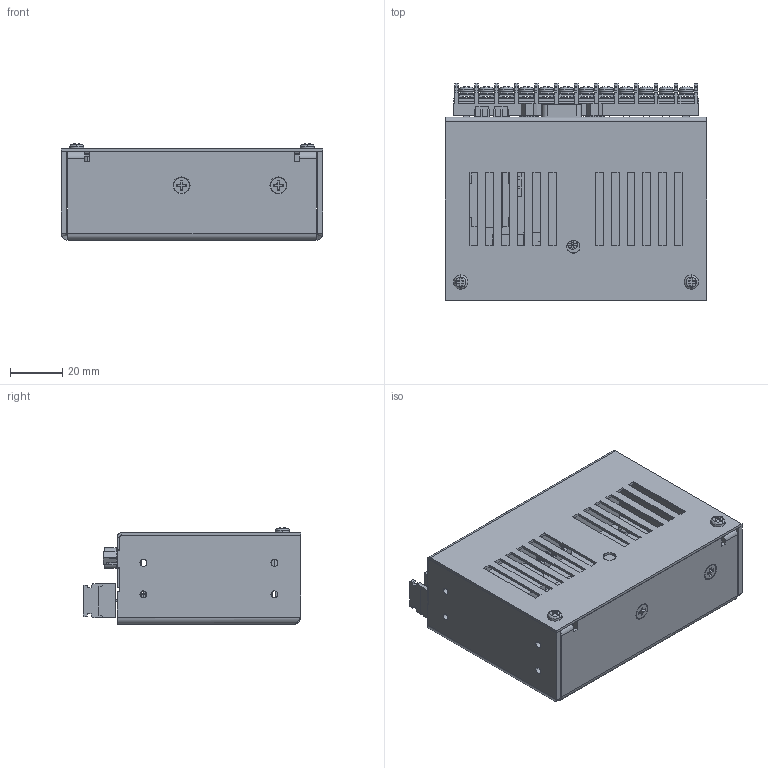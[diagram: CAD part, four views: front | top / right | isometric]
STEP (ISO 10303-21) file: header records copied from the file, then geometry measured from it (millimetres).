
FILE_DESCRIPTION (( 'STEP AP214' ), '1' );
FILE_NAME ('Assem_D6060E_Driver_Shape.STEP', '2012-02-23T15:35:29', ( '' ), ( '' ), 'SwSTEP 2.0', 'SolidWorks 2010', '' );
FILE_SCHEMA (( 'AUTOMOTIVE_DESIGN' ));
Length unit declared in the file: millimetre
Products named in the file (1): Assem_D6060E_Driver_Shape
Bounding box: 100 x 82.9 x 36.96 mm (x, y, z)
Surface area: 73393.3 mm2 (no closed solid volume)
Topology: 0 solids, 112 shells, 1579 faces, 5553 edges, 3997 vertices
Faces by surface type: plane 922, cylinder 439, bspline 84, torus 76, cone 58
Entity records: 79361 total; most frequent: CARTESIAN_POINT 15352, DIRECTION 9357, ORIENTED_EDGE 9033, EDGE_CURVE 5553, VERTEX_POINT 3997, LINE 3569, VECTOR 3569, AXIS2_PLACEMENT_3D 2894
